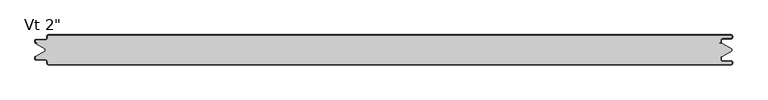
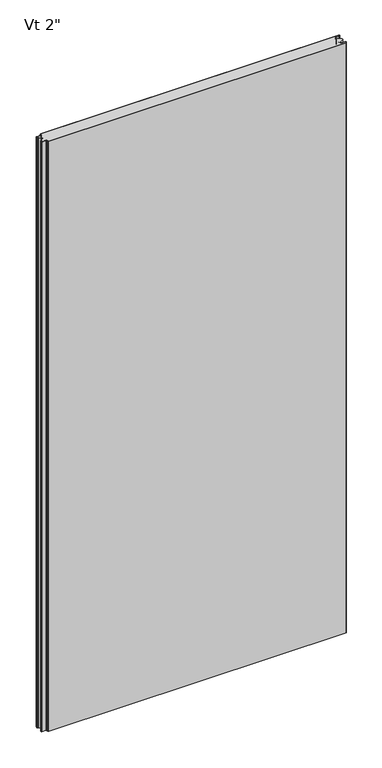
"""IFC4 building model written with IfcOpenShell, lengths in millimetres: plate geometry."""

from ifc_helpers import new_model, si_unit, frame, origin, place, context, project, spatial, polyline, circle_curve, source, transform, mapped, element, save
from ifc_brep_helpers import plane_surface, cylinder_surface, revolved_surface, advanced_brep


def plate_b911fb24(model_context):
    return source(origin(), model_context, "Body", "AdvancedBrep", [
        advanced_brep(
        [(-572.4119006, -2.9775467, 2400.0), (-572.4119006, -5.2690127, 2400.0), (-576.3894926, -9.2466047, 2400.0), (-591.9862817, -9.2466047, 2400.0), (-592.5740768, -9.8343998, 2400.0), (-592.5740768, -12.9058755, 2400.0), (-591.986223, -13.4937293, 2400.0), (-589.6312064, -13.4937293, 2400.0), (-589.6312064, -14.4937446, 2400.0), (-591.9207851, -14.4937446, 2400.0), (-576.2625, -23.7509179, 2400.0), (-576.2625, -27.0490865, 2400.0), (-591.9207851, -36.3062598, 2400.0), (-589.6312064, -36.3062598, 2400.0), (-589.6312064, -37.3062598, 2400.0), (-591.986242, -37.3062598, 2400.0), (-592.5741186, -37.8941365, 2400.0), (-592.5741186, -40.9656854, 2400.0), (-591.9862417, -41.5535623, 2400.0), (-576.3898173, -41.5535623, 2400.0), (-572.4125501, -45.5308295, 2400.0), (-572.4125501, -47.8227194, 2400.0), (-570.4352761, -49.7999935, 2400.0), (574.5475652, -49.8, 2400.0), (576.5248337, -47.8227315, 2400.0), (576.5248337, -46.7806329, 2400.0), (574.5475652, -44.8033643, 2400.0), (560.3591802, -44.8033643, 2400.0), (557.7713036, -42.2154878, 2400.0), (557.7713036, -37.8950697, 2400.0), (557.1628365, -37.3060762, 2400.0), (554.7857432, -37.3060762, 2400.0), (554.7857432, -36.3066023, 2400.0), (560.2280123, -36.3066023, 2400.0), (576.2625, -27.0490865, 2400.0), (576.2625, -23.7509179, 2400.0), (560.2280123, -14.4934021, 2400.0), (554.7857432, -14.4934021, 2400.0), (554.7857432, -13.4939418, 2400.0), (557.1628475, -13.4939418, 2400.0), (557.7713476, -12.9049279, 2400.0), (557.7713476, -8.5845971, 2400.0), (560.3591411, -5.9968035, 2400.0), (574.5478903, -5.9968035, 2400.0), (576.5254845, -4.0192093, 2400.0), (576.5254845, -2.9770147, 2400.0), (574.548995, -1.0005251, 2400.0), (-570.4977766, -1.0005251, 2400.0), (-572.4119006, -2.9775467, 0.0), (-570.4977766, -1.0005251, 0.0), (574.548995, -1.0005251, 0.0), (576.5254845, -2.9770147, 0.0), (576.5254845, -4.0192093, 0.0), (574.5478903, -5.9968035, 0.0), (560.3591411, -5.9968035, 0.0), (557.7713476, -8.5845971, 0.0), (557.7713476, -12.9049279, 0.0), (557.1628475, -13.4939418, 0.0), (554.7857432, -13.4939418, 0.0), (554.7857432, -14.4934021, 0.0), (560.2280123, -14.4934021, 0.0), (576.2625, -23.7509179, 0.0), (576.2625, -27.0490865, 0.0), (560.2280123, -36.3066023, 0.0), (554.7857432, -36.3066023, 0.0), (554.7857432, -37.3060762, 0.0), (557.1628365, -37.3060762, 0.0), (557.7713036, -37.8950697, 0.0), (557.7713036, -42.2154878, 0.0), (560.3591802, -44.8033643, 0.0), (574.5475652, -44.8033643, 0.0), (576.5248337, -46.7806329, 0.0), (576.5248337, -47.8227315, 0.0), (574.5475652, -49.8, 0.0), (-570.4352761, -49.8, 0.0), (-572.4125501, -47.8227194, 0.0), (-572.4125501, -45.5308295, 0.0), (-576.3898173, -41.5535623, 0.0), (-591.9862417, -41.5535623, 0.0), (-592.5741186, -40.9656854, 0.0), (-592.5741186, -37.8941365, 0.0), (-591.986242, -37.3062598, 0.0), (-589.6312064, -37.3062598, 0.0), (-589.6312064, -36.3062598, 0.0), (-591.9207851, -36.3062598, 0.0), (-576.2625, -27.0490865, 0.0), (-576.2625, -23.7509179, 0.0), (-591.9207851, -14.4937446, 0.0), (-589.6312064, -14.4937446, 0.0), (-589.6312064, -13.4937293, 0.0), (-591.986223, -13.4937293, 0.0), (-592.5740768, -12.9058755, 0.0), (-592.5740768, -9.8343998, 0.0), (-591.9862817, -9.2466047, 0.0), (-576.3894926, -9.2466047, 0.0), (-572.4119006, -5.2690127, 0.0)],
        [
            (0, 1),
            (1, 2, circle_curve(frame((-576.3894926, -5.2690127, 2400.0), z_axis=(0.0, 0.0, -1.0), x_axis=(0.0, 1.0, 0.0)), 3.977592)),
            (2, 3),
            (3, 4, circle_curve(frame((-591.9862817, -9.8343998, 2400.0), z_axis=(0.0, 0.0, 1.0), x_axis=(0.0, 1.0, 0.0)), 0.5877951)),
            (4, 5),
            (5, 6, circle_curve(frame((-591.986223, -12.9058755, 2400.0), z_axis=(0.0, 0.0, 1.0), x_axis=(0.0, 1.0, 0.0)), 0.5878538)),
            (6, 7),
            (7, 8),
            (8, 9),
            (9, 10),
            (10, 11),
            (11, 12),
            (12, 13),
            (13, 14),
            (14, 15),
            (15, 16, circle_curve(frame((-591.986242, -37.8941365, 2400.0), z_axis=(0.0, 0.0, 1.0), x_axis=(0.0, 1.0, 0.0)), 0.5878766)),
            (16, 17),
            (17, 18, circle_curve(frame((-591.9862417, -40.9656854, 2400.0), z_axis=(0.0, 0.0, 1.0), x_axis=(0.0, 1.0, 0.0)), 0.5878769)),
            (18, 19),
            (19, 20, circle_curve(frame((-576.3898173, -45.5308295, 2400.0), z_axis=(0.0, 0.0, -1.0), x_axis=(0.0, 1.0, 0.0)), 3.9772671)),
            (20, 21),
            (21, 22, circle_curve(frame((-570.4352761, -47.8227194, 2400.0), z_axis=(0.0, 0.0, 1.0), x_axis=(0.0, 1.0, 0.0)), 1.977274)),
            (22, 23),
            (23, 24, circle_curve(frame((574.5475652, -47.8227315, 2400.0), z_axis=(0.0, 0.0, 1.0), x_axis=(0.0, 1.0, 0.0)), 1.9772685)),
            (24, 25),
            (25, 26, circle_curve(frame((574.5475652, -46.7806329, 2400.0), z_axis=(0.0, 0.0, 1.0), x_axis=(0.0, 1.0, 0.0)), 1.9772685)),
            (26, 27),
            (27, 28, circle_curve(frame((560.3591802, -42.2154878, 2400.0), z_axis=(0.0, 0.0, -1.0), x_axis=(0.0, 1.0, 0.0)), 2.5878765)),
            (28, 29),
            (29, 30, circle_curve(frame((557.1819985, -37.8950697, 2400.0), z_axis=(0.0, 0.0, 1.0), x_axis=(0.0, 1.0, 0.0)), 0.5893051)),
            (30, 31),
            (31, 32),
            (32, 33),
            (33, 34),
            (34, 35),
            (35, 36),
            (36, 37),
            (37, 38),
            (38, 39),
            (39, 40, circle_curve(frame((557.1820216, -12.9049279, 2400.0), z_axis=(0.0, 0.0, 1.0), x_axis=(0.0, 1.0, 0.0)), 0.589326)),
            (40, 41),
            (41, 42, circle_curve(frame((560.3591411, -8.5845971, 2400.0), z_axis=(0.0, 0.0, -1.0), x_axis=(0.0, 1.0, 0.0)), 2.5877935)),
            (42, 43),
            (43, 44, circle_curve(frame((574.5478903, -4.0192093, 2400.0), z_axis=(0.0, 0.0, 1.0), x_axis=(0.0, 1.0, 0.0)), 1.9775943)),
            (44, 45),
            (45, 46, circle_curve(frame((574.548995, -2.9770147, 2400.0), z_axis=(0.0, 0.0, 1.0), x_axis=(0.0, 1.0, 0.0)), 1.9764896)),
            (46, 47),
            (47, 0, circle_curve(frame((-570.4338456, -2.9775467, 2400.0), z_axis=(0.0, 0.0, 1.0), x_axis=(0.0, 1.0, 0.0)), 1.978055)),
            (48, 49, circle_curve(frame((-570.4338456, -2.9775467, 0.0), z_axis=(0.0, 0.0, -1.0), x_axis=(0.0, 1.0, 0.0)), 1.978055)),
            (49, 50),
            (50, 51, circle_curve(frame((574.548995, -2.9770147, 0.0), z_axis=(0.0, 0.0, -1.0), x_axis=(0.0, 1.0, 0.0)), 1.9764896)),
            (51, 52),
            (52, 53, circle_curve(frame((574.5478903, -4.0192093, 0.0), z_axis=(0.0, 0.0, -1.0), x_axis=(0.0, 1.0, 0.0)), 1.9775943)),
            (53, 54),
            (54, 55, circle_curve(frame((560.3591411, -8.5845971, 0.0), z_axis=(0.0, 0.0, 1.0), x_axis=(0.0, 1.0, 0.0)), 2.5877935)),
            (55, 56),
            (56, 57, circle_curve(frame((557.1820216, -12.9049279, 0.0), z_axis=(0.0, 0.0, -1.0), x_axis=(0.0, 1.0, 0.0)), 0.589326)),
            (57, 58),
            (58, 59),
            (59, 60),
            (60, 61),
            (61, 62),
            (62, 63),
            (63, 64),
            (64, 65),
            (65, 66),
            (66, 67, circle_curve(frame((557.1819985, -37.8950697, 0.0), z_axis=(0.0, 0.0, -1.0), x_axis=(0.0, 1.0, 0.0)), 0.5893051)),
            (67, 68),
            (68, 69, circle_curve(frame((560.3591802, -42.2154878, 0.0), z_axis=(0.0, 0.0, 1.0), x_axis=(0.0, 1.0, 0.0)), 2.5878765)),
            (69, 70),
            (70, 71, circle_curve(frame((574.5475652, -46.7806329, 0.0), z_axis=(0.0, 0.0, -1.0), x_axis=(0.0, 1.0, 0.0)), 1.9772685)),
            (71, 72),
            (72, 73, circle_curve(frame((574.5475652, -47.8227315, 0.0), z_axis=(0.0, 0.0, -1.0), x_axis=(0.0, 1.0, 0.0)), 1.9772685)),
            (73, 74),
            (74, 75, circle_curve(frame((-570.4352761, -47.8227194, 0.0), z_axis=(0.0, 0.0, -1.0), x_axis=(0.0, 1.0, 0.0)), 1.977274)),
            (75, 76),
            (76, 77, circle_curve(frame((-576.3898173, -45.5308295, 0.0), z_axis=(0.0, 0.0, 1.0), x_axis=(0.0, 1.0, 0.0)), 3.9772671)),
            (77, 78),
            (78, 79, circle_curve(frame((-591.9862417, -40.9656854, 0.0), z_axis=(0.0, 0.0, -1.0), x_axis=(0.0, 1.0, 0.0)), 0.5878769)),
            (79, 80),
            (80, 81, circle_curve(frame((-591.986242, -37.8941365, 0.0), z_axis=(0.0, 0.0, -1.0), x_axis=(0.0, 1.0, 0.0)), 0.5878766)),
            (81, 82),
            (82, 83),
            (83, 84),
            (84, 85),
            (85, 86),
            (86, 87),
            (87, 88),
            (88, 89),
            (89, 90),
            (90, 91, circle_curve(frame((-591.986223, -12.9058755, 0.0), z_axis=(0.0, 0.0, -1.0), x_axis=(0.0, 1.0, 0.0)), 0.5878538)),
            (91, 92),
            (92, 93, circle_curve(frame((-591.9862817, -9.8343998, 0.0), z_axis=(0.0, 0.0, -1.0), x_axis=(0.0, 1.0, 0.0)), 0.5877951)),
            (93, 94),
            (94, 95, circle_curve(frame((-576.3894926, -5.2690127, 0.0), z_axis=(0.0, 0.0, 1.0), x_axis=(0.0, 1.0, 0.0)), 3.977592)),
            (95, 48),
            (47, 49),
            (48, 0),
            (95, 1),
            (94, 2),
            (93, 3),
            (92, 4),
            (91, 5),
            (90, 6),
            (89, 7),
            (88, 8),
            (87, 9),
            (36, 60),
            (59, 37),
            (58, 38),
            (57, 39),
            (56, 40),
            (55, 41),
            (54, 42),
            (53, 43),
            (52, 44),
            (51, 45),
            (50, 46),
            (35, 61),
            (86, 10),
            (21, 75),
            (74, 22),
            (20, 76),
            (19, 77),
            (18, 78),
            (17, 79),
            (16, 80),
            (15, 81),
            (14, 82),
            (13, 83),
            (12, 84),
            (32, 64),
            (63, 33),
            (31, 65),
            (30, 66),
            (29, 67),
            (28, 68),
            (27, 69),
            (26, 70),
            (25, 71),
            (24, 72),
            (23, 73),
            (62, 34),
            (11, 85),
        ],
        [
            plane_surface(frame((0.0, -49.8, 2400.0), z_axis=(0.0, 0.0, 1.0), x_axis=(0.0, -1.0, 0.0))),
            plane_surface(frame((0.0, -49.8, 0.0), z_axis=(0.0, 0.0, -1.0), x_axis=(0.0, -1.0, 0.0))),
            cylinder_surface(frame((-570.4338456, -2.9775467, 2400.0), z_axis=(0.0, 0.0, 1.0), x_axis=(0.0, 1.0, 0.0)), 1.978055),
            plane_surface(frame((-572.4119006, -5.2690127, 2400.0), z_axis=(-1.0, 0.0, 0.0), x_axis=(0.0, 0.0, -1.0))),
            revolved_surface(polyline([(-576.3894926, -1.2914207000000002, 0.0), (-576.3894926, -1.2914207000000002, 2400.0)]), (-576.3894926, -5.2690127, 2400.0), (0.0, 0.0, -1.0)),
            plane_surface(frame((-591.9862817, -9.2466047, 2400.0), z_axis=(0.0, 1.0, 0.0), x_axis=(0.0, 0.0, -1.0))),
            cylinder_surface(frame((-591.9862817, -9.8343998, 2400.0), z_axis=(0.0, 0.0, 1.0), x_axis=(0.0, 1.0, 0.0)), 0.5877951),
            plane_surface(frame((-592.5740768, -12.9058755, 2400.0), z_axis=(-1.0, 0.0, 0.0), x_axis=(0.0, 0.0, -1.0))),
            cylinder_surface(frame((-591.986223, -12.9058755, 2400.0), z_axis=(0.0, 0.0, 1.0), x_axis=(0.0, 1.0, 0.0)), 0.5878538),
            plane_surface(frame((-589.6312064, -13.4937293, 2400.0), z_axis=(0.0, -1.0, 0.0), x_axis=(0.0, 0.0, -1.0))),
            plane_surface(frame((-589.6312064, -14.4937446, 2400.0), z_axis=(-1.0, 0.0, 0.0), x_axis=(0.0, 0.0, -1.0))),
            plane_surface(frame((-591.9207851, -14.4937446, 2400.0), z_axis=(0.0, 1.0, 0.0), x_axis=(0.0, 0.0, -1.0))),
            plane_surface(frame((554.7857432, -14.4934021, 2400.0), z_axis=(0.0, 1.0, 0.0), x_axis=(0.0, 0.0, -1.0))),
            plane_surface(frame((554.7857432, -13.4939418, 2400.0), z_axis=(1.0, 0.0, 0.0), x_axis=(0.0, 0.0, -1.0))),
            plane_surface(frame((557.1628475, -13.4939418, 2400.0), z_axis=(0.0, -1.0, 0.0), x_axis=(0.0, 0.0, -1.0))),
            cylinder_surface(frame((557.1820216, -12.9049279, 2400.0), z_axis=(0.0, 0.0, 1.0), x_axis=(0.0, 1.0, 0.0)), 0.589326),
            plane_surface(frame((557.7713476, -8.5845971, 2400.0), z_axis=(1.0, 0.0, 0.0), x_axis=(0.0, 0.0, -1.0))),
            revolved_surface(polyline([(560.3591411, -5.9968036, 0.0), (560.3591411, -5.9968036, 2400.0)]), (560.3591411, -8.5845971, 2400.0), (0.0, 0.0, -1.0)),
            plane_surface(frame((574.5478903, -5.9968035, 2400.0), z_axis=(0.0, -1.0, 0.0), x_axis=(0.0, 0.0, -1.0))),
            cylinder_surface(frame((574.5478903, -4.0192093, 2400.0), z_axis=(0.0, 0.0, 1.0), x_axis=(0.0, 1.0, 0.0)), 1.9775943),
            plane_surface(frame((576.5254845, -2.9770147, 2400.0), z_axis=(1.0, 0.0, 0.0), x_axis=(0.0, 0.0, -1.0))),
            cylinder_surface(frame((574.548995, -2.9770147, 2400.0), z_axis=(0.0, 0.0, 1.0), x_axis=(0.0, 1.0, 0.0)), 1.9764896),
            plane_surface(frame((560.2280123, -14.4934021, 2400.0), z_axis=(0.500000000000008, 0.8660254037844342, 0.0), x_axis=(0.0, 0.0, -1.0))),
            plane_surface(frame((-576.2625, -23.7509179, 2400.0), z_axis=(-0.5089147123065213, -0.860816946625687, 0.0), x_axis=(0.0, 0.0, -1.0))),
            cylinder_surface(frame((-570.4352761, -47.8227194, 2400.0), z_axis=(0.0, 0.0, 1.0), x_axis=(0.0, 1.0, 0.0)), 1.977274),
            plane_surface(frame((-572.4125501, -47.8227194, 2400.0), z_axis=(-1.0, 0.0, 0.0), x_axis=(0.0, 0.0, -1.0))),
            revolved_surface(polyline([(-576.3898173, -41.553562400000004, 0.0), (-576.3898173, -41.553562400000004, 2400.0)]), (-576.3898173, -45.5308295, 2400.0), (0.0, 0.0, -1.0)),
            plane_surface(frame((-576.3898173, -41.5535623, 2400.0), z_axis=(0.0, -1.0, 0.0), x_axis=(0.0, 0.0, -1.0))),
            cylinder_surface(frame((-591.9862417, -40.9656854, 2400.0), z_axis=(0.0, 0.0, 1.0), x_axis=(0.0, 1.0, 0.0)), 0.5878769),
            plane_surface(frame((-592.5741186, -40.9656854, 2400.0), z_axis=(-1.0, 0.0, 0.0), x_axis=(0.0, 0.0, -1.0))),
            cylinder_surface(frame((-591.986242, -37.8941365, 2400.0), z_axis=(0.0, 0.0, 1.0), x_axis=(0.0, 1.0, 0.0)), 0.5878766),
            plane_surface(frame((-591.986242, -37.3062598, 2400.0), z_axis=(0.0, 1.0, 0.0), x_axis=(0.0, 0.0, -1.0))),
            plane_surface(frame((-589.6312064, -37.3062598, 2400.0), z_axis=(-1.0, 0.0, 0.0), x_axis=(0.0, 0.0, -1.0))),
            plane_surface(frame((-589.6312064, -36.3062598, 2400.0), z_axis=(0.0, -1.0, 0.0), x_axis=(0.0, 0.0, -1.0))),
            plane_surface(frame((560.2280123, -36.3066023, 2400.0), z_axis=(0.0, -1.0, 0.0), x_axis=(0.0, 0.0, -1.0))),
            plane_surface(frame((554.7857432, -36.3066023, 2400.0), z_axis=(1.0, 0.0, 0.0), x_axis=(0.0, 0.0, -1.0))),
            plane_surface(frame((554.7857432, -37.3060762, 2400.0), z_axis=(0.0, 1.0, 0.0), x_axis=(0.0, 0.0, -1.0))),
            cylinder_surface(frame((557.1819985, -37.8950697, 2400.0), z_axis=(0.0, 0.0, 1.0), x_axis=(0.0, 1.0, 0.0)), 0.5893051),
            plane_surface(frame((557.7713036, -37.8950697, 2400.0), z_axis=(1.0, 0.0, 0.0), x_axis=(0.0, 0.0, -1.0))),
            revolved_surface(polyline([(560.3591802, -39.6276113, 0.0), (560.3591802, -39.6276113, 2400.0)]), (560.3591802, -42.2154878, 2400.0), (0.0, 0.0, -1.0)),
            plane_surface(frame((560.3591802, -44.8033643, 2400.0), z_axis=(0.0, 1.0, 0.0), x_axis=(0.0, 0.0, -1.0))),
            cylinder_surface(frame((574.5475652, -46.7806329, 2400.0), z_axis=(0.0, 0.0, 1.0), x_axis=(0.0, 1.0, 0.0)), 1.9772685),
            plane_surface(frame((576.5248337, -46.7806329, 2400.0), z_axis=(1.0, 0.0, 0.0), x_axis=(0.0, 0.0, -1.0))),
            cylinder_surface(frame((574.5475652, -47.8227315, 2400.0), z_axis=(0.0, 0.0, 1.0), x_axis=(0.0, 1.0, 0.0)), 1.9772685),
            plane_surface(frame((574.5475652, -49.8, 2400.0), z_axis=(0.0, -1.0, 0.0), x_axis=(0.0, 0.0, -1.0))),
            plane_surface(frame((576.2625, -27.0490865, 2400.0), z_axis=(0.500000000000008, -0.8660254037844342, 0.0), x_axis=(0.0, 0.0, -1.0))),
            plane_surface(frame((-591.9207851, -36.3062598, 2400.0), z_axis=(-0.5089147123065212, 0.860816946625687, 0.0), x_axis=(0.0, 0.0, -1.0))),
            plane_surface(frame((576.2625, -23.7509179, 2400.0), z_axis=(1.0, 0.0, 0.0), x_axis=(0.0, 0.0, -1.0))),
            plane_surface(frame((-576.2625, -27.0490865, 2400.0), z_axis=(-1.0, 0.0, 0.0), x_axis=(0.0, 0.0, -1.0))),
            plane_surface(frame((-570.4977766, -1.0005251, 2400.0), z_axis=(0.0, 1.0, 0.0), x_axis=(0.0, 0.0, -1.0))),
        ],
        [
            (0, [[1, 2, 3, 4, 5, 6, 7, 8, 9, 10, 11, 12, 13, 14, 15, 16, 17, 18, 19, 20, 21, 22, 23, 24, 25, 26, 27, 28, 29, 30, 31, 32, 33, 34, 35, 36, 37, 38, 39, 40, 41, 42, 43, 44, 45, 46, 47, 48]]),
            (1, [[49, 50, 51, 52, 53, 54, 55, 56, 57, 58, 59, 60, 61, 62, 63, 64, 65, 66, 67, 68, 69, 70, 71, 72, 73, 74, 75, 76, 77, 78, 79, 80, 81, 82, 83, 84, 85, 86, 87, 88, 89, 90, 91, 92, 93, 94, 95, 96]]),
            (2, [[97, -49, 98, -48]]),
            (3, [[-98, -96, 99, -1]]),
            (4, [[-99, -95, 100, -2]]),
            (5, [[-100, -94, 101, -3]]),
            (6, [[-101, -93, 102, -4]]),
            (7, [[-102, -92, 103, -5]]),
            (8, [[-103, -91, 104, -6]]),
            (9, [[-104, -90, 105, -7]]),
            (10, [[-105, -89, 106, -8]]),
            (11, [[-106, -88, 107, -9]]),
            (12, [[108, -60, 109, -37]]),
            (13, [[-109, -59, 110, -38]]),
            (14, [[-110, -58, 111, -39]]),
            (15, [[-111, -57, 112, -40]]),
            (16, [[-112, -56, 113, -41]]),
            (17, [[-113, -55, 114, -42]]),
            (18, [[-114, -54, 115, -43]]),
            (19, [[-115, -53, 116, -44]]),
            (20, [[-116, -52, 117, -45]]),
            (21, [[-117, -51, 118, -46]]),
            (22, [[119, -61, -108, -36]]),
            (23, [[-107, -87, 120, -10]]),
            (24, [[121, -75, 122, -22]]),
            (25, [[123, -76, -121, -21]]),
            (26, [[124, -77, -123, -20]]),
            (27, [[125, -78, -124, -19]]),
            (28, [[126, -79, -125, -18]]),
            (29, [[127, -80, -126, -17]]),
            (30, [[128, -81, -127, -16]]),
            (31, [[129, -82, -128, -15]]),
            (32, [[130, -83, -129, -14]]),
            (33, [[131, -84, -130, -13]]),
            (34, [[132, -64, 133, -33]]),
            (35, [[134, -65, -132, -32]]),
            (36, [[135, -66, -134, -31]]),
            (37, [[136, -67, -135, -30]]),
            (38, [[137, -68, -136, -29]]),
            (39, [[138, -69, -137, -28]]),
            (40, [[139, -70, -138, -27]]),
            (41, [[140, -71, -139, -26]]),
            (42, [[141, -72, -140, -25]]),
            (43, [[142, -73, -141, -24]]),
            (44, [[-122, -74, -142, -23]]),
            (45, [[-133, -63, 143, -34]]),
            (46, [[144, -85, -131, -12]]),
            (47, [[-143, -62, -119, -35]]),
            (48, [[-120, -86, -144, -11]]),
            (49, [[-118, -50, -97, -47]]),
        ],
    ),
        advanced_brep(
        [(-572.4123937, -2.9776189, 2400.0), (-570.4354837, -1.0007088, 2400.0), (574.550337, -1.0007088, 2400.0), (576.5262182, -2.97659, 2400.0), (576.5262182, -4.019022, 2400.0), (574.5482568, -5.9969834, 2400.0), (560.3590971, -5.9969834, 2400.0), (557.7713971, -8.5846834, 2400.0), (557.7713971, -12.9049158, 2400.0), (557.1628599, -13.4939528, 2400.0), (554.7857432, -13.4939528, 2400.0), (554.7857432, -14.4933977, 2400.0), (557.1304042, -14.4933977, 2400.0), (558.7713036, -12.9049303, 2400.0), (558.7713036, -8.5845122, 2400.0), (560.3591801, -6.9966356, 2400.0), (574.5475652, -6.9966356, 2400.0), (577.5248337, -4.0193671, 2400.0), (577.5248337, -2.9772685, 2400.0), (574.5475652, 0.0, 2400.0), (-570.4352789, 0.0, 2400.0), (-573.4125474, -2.977286, 2400.0), (-573.4125474, -5.2691698, 2400.0), (-576.3898159, -8.2464384, 2400.0), (-591.9862419, -8.2464384, 2400.0), (-593.5741185, -9.8343149, 2400.0), (-593.5741185, -12.9058636, 2400.0), (-591.9862419, -14.4937401, 2400.0), (-589.6312064, -14.4937401, 2400.0), (-589.6312064, -13.4937365, 2400.0), (-591.9862374, -13.4937365, 2400.0), (-592.5741086, -12.9058654, 2400.0), (-592.5741086, -9.834334, 2400.0), (-591.9862514, -9.2464768, 2400.0), (-576.3897391, -9.2464768, 2400.0), (-572.4123937, -5.2691315, 2400.0), (-572.4123937, -2.9776189, 0.0), (-572.4123937, -5.2691315, 0.0), (-576.3897391, -9.2464768, 0.0), (-591.9862514, -9.2464768, 0.0), (-592.5741086, -9.834334, 0.0), (-592.5741086, -12.9058654, 0.0), (-591.9862374, -13.4937365, 0.0), (-589.6312064, -13.4937365, 0.0), (-589.6312064, -14.4937401, 0.0), (-591.9862419, -14.4937401, 0.0), (-593.5741185, -12.9058636, 0.0), (-593.5741185, -9.8343149, 0.0), (-591.9862419, -8.2464384, 0.0), (-576.3898159, -8.2464384, 0.0), (-573.4125474, -5.2691698, 0.0), (-573.4125474, -2.977286, 0.0), (-570.4352789, -1.75e-05, 0.0), (574.5475652, 0.0, 0.0), (577.5248337, -2.9772685, 0.0), (577.5248337, -4.0193671, 0.0), (574.5475652, -6.9966356, 0.0), (560.3591801, -6.9966356, 0.0), (558.7713036, -8.5845122, 0.0), (558.7713036, -12.9049303, 0.0), (557.1304042, -14.4933977, 0.0), (554.7857432, -14.4933977, 0.0), (554.7857432, -13.4939528, 0.0), (557.1628599, -13.4939528, 0.0), (557.7713971, -12.9049158, 0.0), (557.7713971, -8.5846834, 0.0), (560.3590971, -5.9969834, 0.0), (574.5482568, -5.9969834, 0.0), (576.5262182, -4.019022, 0.0), (576.5262182, -2.97659, 0.0), (574.550337, -1.0007088, 0.0), (-570.4354837, -1.0007088, 0.0)],
        [
            (0, 1, circle_curve(frame((-570.4354837, -2.9776189, 2400.0), z_axis=(0.0, 0.0, -1.0), x_axis=(0.0, 1.0, 0.0)), 1.9769101)),
            (1, 2),
            (2, 3, circle_curve(frame((574.550337, -2.97659, 2400.0), z_axis=(0.0, 0.0, -1.0), x_axis=(0.0, 1.0, 0.0)), 1.9758812)),
            (3, 4),
            (4, 5, circle_curve(frame((574.5482568, -4.019022, 2400.0), z_axis=(0.0, 0.0, -1.0), x_axis=(0.0, 1.0, 0.0)), 1.9779614)),
            (5, 6),
            (6, 7, circle_curve(frame((560.3590971, -8.5846834, 2400.0), z_axis=(0.0, 0.0, 1.0), x_axis=(0.0, 1.0, 0.0)), 2.5877)),
            (7, 8),
            (8, 9, circle_curve(frame((557.1820477, -12.9049158, 2400.0), z_axis=(0.0, 0.0, -1.0), x_axis=(0.0, 1.0, 0.0)), 0.5893495)),
            (9, 10),
            (10, 11),
            (11, 12),
            (12, 13, circle_curve(frame((557.1819985, -12.9049303, 2400.0), z_axis=(0.0, 0.0, 1.0), x_axis=(0.0, 1.0, 0.0)), 1.5893051)),
            (13, 14),
            (14, 15, circle_curve(frame((560.3591801, -8.5845122, 2400.0), z_axis=(0.0, 0.0, -1.0), x_axis=(0.0, 1.0, 0.0)), 1.5878765)),
            (15, 16),
            (16, 17, circle_curve(frame((574.5475652, -4.0193671, 2400.0), z_axis=(0.0, 0.0, 1.0), x_axis=(0.0, 1.0, 0.0)), 2.9772685)),
            (17, 18),
            (18, 19, circle_curve(frame((574.5475652, -2.9772685, 2400.0), z_axis=(0.0, 0.0, 1.0), x_axis=(0.0, 1.0, 0.0)), 2.9772685)),
            (19, 20),
            (20, 21, circle_curve(frame((-570.4352789, -2.977286, 2400.0), z_axis=(0.0, 0.0, 1.0), x_axis=(0.0, 1.0, 0.0)), 2.9772685)),
            (21, 22),
            (22, 23, circle_curve(frame((-576.3898159, -5.2691698, 2400.0), z_axis=(0.0, 0.0, -1.0), x_axis=(0.0, 1.0, 0.0)), 2.9772685)),
            (23, 24),
            (24, 25, circle_curve(frame((-591.9862419, -9.8343149, 2400.0), z_axis=(0.0, 0.0, 1.0), x_axis=(0.0, 1.0, 0.0)), 1.5878765)),
            (25, 26),
            (26, 27, circle_curve(frame((-591.9862419, -12.9058636, 2400.0), z_axis=(0.0, 0.0, 1.0), x_axis=(0.0, 1.0, 0.0)), 1.5878765)),
            (27, 28),
            (28, 29),
            (29, 30),
            (30, 31, circle_curve(frame((-591.9862374, -12.9058654, 2400.0), z_axis=(0.0, 0.0, -1.0), x_axis=(0.0, 1.0, 0.0)), 0.5878711)),
            (31, 32),
            (32, 33, circle_curve(frame((-591.9862514, -9.834334, 2400.0), z_axis=(0.0, 0.0, -1.0), x_axis=(0.0, 1.0, 0.0)), 0.5878572)),
            (33, 34),
            (34, 35, circle_curve(frame((-576.3897391, -5.2691315, 2400.0), z_axis=(0.0, 0.0, 1.0), x_axis=(0.0, 1.0, 0.0)), 3.9773454)),
            (35, 0),
            (36, 37),
            (37, 38, circle_curve(frame((-576.3897391, -5.2691315, 0.0), z_axis=(0.0, 0.0, -1.0), x_axis=(0.0, 1.0, 0.0)), 3.9773454)),
            (38, 39),
            (39, 40, circle_curve(frame((-591.9862514, -9.834334, 0.0), z_axis=(0.0, 0.0, 1.0), x_axis=(0.0, 1.0, 0.0)), 0.5878572)),
            (40, 41),
            (41, 42, circle_curve(frame((-591.9862374, -12.9058654, 0.0), z_axis=(0.0, 0.0, 1.0), x_axis=(0.0, 1.0, 0.0)), 0.5878711)),
            (42, 43),
            (43, 44),
            (44, 45),
            (45, 46, circle_curve(frame((-591.9862419, -12.9058636, 0.0), z_axis=(0.0, 0.0, -1.0), x_axis=(0.0, 1.0, 0.0)), 1.5878765)),
            (46, 47),
            (47, 48, circle_curve(frame((-591.9862419, -9.8343149, 0.0), z_axis=(0.0, 0.0, -1.0), x_axis=(0.0, 1.0, 0.0)), 1.5878765)),
            (48, 49),
            (49, 50, circle_curve(frame((-576.3898159, -5.2691698, 0.0), z_axis=(0.0, 0.0, 1.0), x_axis=(0.0, 1.0, 0.0)), 2.9772685)),
            (50, 51),
            (51, 52, circle_curve(frame((-570.4352789, -2.977286, 0.0), z_axis=(0.0, 0.0, -1.0), x_axis=(0.0, 1.0, 0.0)), 2.9772685)),
            (52, 53),
            (53, 54, circle_curve(frame((574.5475652, -2.9772685, 0.0), z_axis=(0.0, 0.0, -1.0), x_axis=(0.0, 1.0, 0.0)), 2.9772685)),
            (54, 55),
            (55, 56, circle_curve(frame((574.5475652, -4.0193671, 0.0), z_axis=(0.0, 0.0, -1.0), x_axis=(0.0, 1.0, 0.0)), 2.9772685)),
            (56, 57),
            (57, 58, circle_curve(frame((560.3591801, -8.5845122, 0.0), z_axis=(0.0, 0.0, 1.0), x_axis=(0.0, 1.0, 0.0)), 1.5878765)),
            (58, 59),
            (59, 60, circle_curve(frame((557.1819985, -12.9049303, 0.0), z_axis=(0.0, 0.0, -1.0), x_axis=(0.0, 1.0, 0.0)), 1.5893051)),
            (60, 61),
            (61, 62),
            (62, 63),
            (63, 64, circle_curve(frame((557.1820477, -12.9049158, 0.0), z_axis=(0.0, 0.0, 1.0), x_axis=(0.0, 1.0, 0.0)), 0.5893495)),
            (64, 65),
            (65, 66, circle_curve(frame((560.3590971, -8.5846834, 0.0), z_axis=(0.0, 0.0, -1.0), x_axis=(0.0, 1.0, 0.0)), 2.5877)),
            (66, 67),
            (67, 68, circle_curve(frame((574.5482568, -4.019022, 0.0), z_axis=(0.0, 0.0, 1.0), x_axis=(0.0, 1.0, 0.0)), 1.9779614)),
            (68, 69),
            (69, 70, circle_curve(frame((574.550337, -2.97659, 0.0), z_axis=(0.0, 0.0, 1.0), x_axis=(0.0, 1.0, 0.0)), 1.9758812)),
            (70, 71),
            (71, 36, circle_curve(frame((-570.4354837, -2.9776189, 0.0), z_axis=(0.0, 0.0, 1.0), x_axis=(0.0, 1.0, 0.0)), 1.9769101)),
            (35, 37),
            (36, 0),
            (34, 38),
            (33, 39),
            (32, 40),
            (31, 41),
            (30, 42),
            (29, 43),
            (28, 44),
            (27, 45),
            (26, 46),
            (25, 47),
            (24, 48),
            (23, 49),
            (22, 50),
            (21, 51),
            (20, 52),
            (19, 53),
            (18, 54),
            (17, 55),
            (16, 56),
            (15, 57),
            (14, 58),
            (13, 59),
            (12, 60),
            (11, 61),
            (10, 62),
            (9, 63),
            (8, 64),
            (7, 65),
            (6, 66),
            (5, 67),
            (4, 68),
            (3, 69),
            (2, 70),
            (1, 71),
        ],
        [
            plane_surface(frame((0.0, 0.0, 2400.0), z_axis=(0.0, 0.0, 1.0), x_axis=(0.0, 1.0, 0.0))),
            plane_surface(frame((0.0, 0.0, 0.0), z_axis=(0.0, 0.0, -1.0), x_axis=(0.0, 1.0, 0.0))),
            plane_surface(frame((-572.4123937, -2.9776189, 2400.0), z_axis=(1.0, 0.0, 0.0), x_axis=(0.0, 0.0, -1.0))),
            cylinder_surface(frame((-576.3897391, -5.2691315, 2400.0), z_axis=(0.0, 0.0, 1.0), x_axis=(0.0, 1.0, 0.0)), 3.9773454),
            plane_surface(frame((-576.3897391, -9.2464768, 2400.0), z_axis=(0.0, -1.0, 0.0), x_axis=(0.0, 0.0, -1.0))),
            revolved_surface(polyline([(-591.9862514, -9.2464768, 0.0), (-591.9862514, -9.2464768, 2400.0)]), (-591.9862514, -9.834334, 2400.0), (0.0, 0.0, -1.0)),
            plane_surface(frame((-592.5741086, -9.834334, 2400.0), z_axis=(1.0, 0.0, 0.0), x_axis=(0.0, 0.0, -1.0))),
            revolved_surface(polyline([(-591.9862374, -12.3179943, 0.0), (-591.9862374, -12.3179943, 2400.0)]), (-591.9862374, -12.9058654, 2400.0), (0.0, 0.0, -1.0)),
            plane_surface(frame((-591.9862374, -13.4937365, 2400.0), z_axis=(0.0, 1.0, 0.0), x_axis=(0.0, 0.0, -1.0))),
            plane_surface(frame((-589.6312064, -13.4937365, 2400.0), z_axis=(1.0, 0.0, 0.0), x_axis=(0.0, 0.0, -1.0))),
            plane_surface(frame((-589.6312064, -14.4937401, 2400.0), z_axis=(0.0, -1.0, 0.0), x_axis=(0.0, 0.0, -1.0))),
            cylinder_surface(frame((-591.9862419, -12.9058636, 2400.0), z_axis=(0.0, 0.0, 1.0), x_axis=(0.0, 1.0, 0.0)), 1.5878765),
            plane_surface(frame((-593.5741185, -12.9058636, 2400.0), z_axis=(-1.0, 0.0, 0.0), x_axis=(0.0, 0.0, -1.0))),
            cylinder_surface(frame((-591.9862419, -9.8343149, 2400.0), z_axis=(0.0, 0.0, 1.0), x_axis=(0.0, 1.0, 0.0)), 1.5878765),
            plane_surface(frame((-591.9862419, -8.2464384, 2400.0), z_axis=(0.0, 1.0, 0.0), x_axis=(0.0, 0.0, -1.0))),
            revolved_surface(polyline([(-576.3898159, -2.2919013, 0.0), (-576.3898159, -2.2919013, 2400.0)]), (-576.3898159, -5.2691698, 2400.0), (0.0, 0.0, -1.0)),
            plane_surface(frame((-573.4125474, -5.2691698, 2400.0), z_axis=(-1.0, 0.0, 0.0), x_axis=(0.0, 0.0, -1.0))),
            cylinder_surface(frame((-570.4352789, -2.977286, 2400.0), z_axis=(0.0, 0.0, 1.0), x_axis=(0.0, 1.0, 0.0)), 2.9772685),
            plane_surface(frame((-570.4352789, 0.0, 2400.0), z_axis=(0.0, 1.0, 0.0), x_axis=(0.0, 0.0, -1.0))),
            cylinder_surface(frame((574.5475652, -2.9772685, 2400.0), z_axis=(0.0, 0.0, 1.0), x_axis=(0.0, 1.0, 0.0)), 2.9772685),
            plane_surface(frame((577.5248337, -2.9772685, 2400.0), z_axis=(1.0, 0.0, 0.0), x_axis=(0.0, 0.0, -1.0))),
            cylinder_surface(frame((574.5475652, -4.0193671, 2400.0), z_axis=(0.0, 0.0, 1.0), x_axis=(0.0, 1.0, 0.0)), 2.9772685),
            plane_surface(frame((574.5475652, -6.9966356, 2400.0), z_axis=(0.0, -1.0, 0.0), x_axis=(0.0, 0.0, -1.0))),
            revolved_surface(polyline([(560.3591801, -6.996635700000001, 0.0), (560.3591801, -6.996635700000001, 2400.0)]), (560.3591801, -8.5845122, 2400.0), (0.0, 0.0, -1.0)),
            plane_surface(frame((558.7713036, -8.5845122, 2400.0), z_axis=(1.0, 0.0, 0.0), x_axis=(0.0, 0.0, -1.0))),
            cylinder_surface(frame((557.1819985, -12.9049303, 2400.0), z_axis=(0.0, 0.0, 1.0), x_axis=(0.0, 1.0, 0.0)), 1.5893051),
            plane_surface(frame((557.1304042, -14.4933977, 2400.0), z_axis=(0.0, -1.0, 0.0), x_axis=(0.0, 0.0, -1.0))),
            plane_surface(frame((554.7857432, -14.4933977, 2400.0), z_axis=(-1.0, 0.0, 0.0), x_axis=(0.0, 0.0, -1.0))),
            plane_surface(frame((554.7857432, -13.4939528, 2400.0), z_axis=(0.0, 1.0, 0.0), x_axis=(0.0, 0.0, -1.0))),
            revolved_surface(polyline([(557.1820477, -12.3155663, 0.0), (557.1820477, -12.3155663, 2400.0)]), (557.1820477, -12.9049158, 2400.0), (0.0, 0.0, -1.0)),
            plane_surface(frame((557.7713971, -12.9049158, 2400.0), z_axis=(-1.0, 0.0, 0.0), x_axis=(0.0, 0.0, -1.0))),
            cylinder_surface(frame((560.3590971, -8.5846834, 2400.0), z_axis=(0.0, 0.0, 1.0), x_axis=(0.0, 1.0, 0.0)), 2.5877),
            plane_surface(frame((560.3590971, -5.9969834, 2400.0), z_axis=(0.0, 1.0, 0.0), x_axis=(0.0, 0.0, -1.0))),
            revolved_surface(polyline([(574.5482568, -2.0410606, 0.0), (574.5482568, -2.0410606, 2400.0)]), (574.5482568, -4.019022, 2400.0), (0.0, 0.0, -1.0)),
            plane_surface(frame((576.5262182, -4.019022, 2400.0), z_axis=(-1.0, 0.0, 0.0), x_axis=(0.0, 0.0, -1.0))),
            revolved_surface(polyline([(574.550337, -1.0007088, 0.0), (574.550337, -1.0007088, 2400.0)]), (574.550337, -2.97659, 2400.0), (0.0, 0.0, -1.0)),
            plane_surface(frame((574.550337, -1.0007088, 2400.0), z_axis=(0.0, -1.0, 0.0), x_axis=(0.0, 0.0, -1.0))),
            revolved_surface(polyline([(-570.4354837, -1.0007088, 0.0), (-570.4354837, -1.0007088, 2400.0)]), (-570.4354837, -2.9776189, 2400.0), (0.0, 0.0, -1.0)),
        ],
        [
            (0, [[1, 2, 3, 4, 5, 6, 7, 8, 9, 10, 11, 12, 13, 14, 15, 16, 17, 18, 19, 20, 21, 22, 23, 24, 25, 26, 27, 28, 29, 30, 31, 32, 33, 34, 35, 36]]),
            (1, [[37, 38, 39, 40, 41, 42, 43, 44, 45, 46, 47, 48, 49, 50, 51, 52, 53, 54, 55, 56, 57, 58, 59, 60, 61, 62, 63, 64, 65, 66, 67, 68, 69, 70, 71, 72]]),
            (2, [[73, -37, 74, -36]]),
            (3, [[75, -38, -73, -35]]),
            (4, [[76, -39, -75, -34]]),
            (5, [[77, -40, -76, -33]]),
            (6, [[78, -41, -77, -32]]),
            (7, [[79, -42, -78, -31]]),
            (8, [[80, -43, -79, -30]]),
            (9, [[81, -44, -80, -29]]),
            (10, [[82, -45, -81, -28]]),
            (11, [[83, -46, -82, -27]]),
            (12, [[84, -47, -83, -26]]),
            (13, [[85, -48, -84, -25]]),
            (14, [[86, -49, -85, -24]]),
            (15, [[87, -50, -86, -23]]),
            (16, [[88, -51, -87, -22]]),
            (17, [[89, -52, -88, -21]]),
            (18, [[90, -53, -89, -20]]),
            (19, [[91, -54, -90, -19]]),
            (20, [[92, -55, -91, -18]]),
            (21, [[93, -56, -92, -17]]),
            (22, [[94, -57, -93, -16]]),
            (23, [[95, -58, -94, -15]]),
            (24, [[96, -59, -95, -14]]),
            (25, [[97, -60, -96, -13]]),
            (26, [[98, -61, -97, -12]]),
            (27, [[99, -62, -98, -11]]),
            (28, [[100, -63, -99, -10]]),
            (29, [[101, -64, -100, -9]]),
            (30, [[102, -65, -101, -8]]),
            (31, [[103, -66, -102, -7]]),
            (32, [[104, -67, -103, -6]]),
            (33, [[105, -68, -104, -5]]),
            (34, [[106, -69, -105, -4]]),
            (35, [[107, -70, -106, -3]]),
            (36, [[108, -71, -107, -2]]),
            (37, [[-74, -72, -108, -1]]),
        ],
    ),
        advanced_brep(
        [(-572.4123937, -47.8223811, 2400.0), (-572.4123937, -45.5308685, 2400.0), (-576.3897391, -41.5535232, 2400.0), (-591.9862514, -41.5535232, 2400.0), (-592.5741086, -40.965666, 2400.0), (-592.5741086, -37.8941346, 2400.0), (-591.9862374, -37.3062635, 2400.0), (-589.6312064, -37.3062635, 2400.0), (-589.6312064, -36.3062599, 2400.0), (-591.9862419, -36.3062599, 2400.0), (-593.5741185, -37.8941364, 2400.0), (-593.5741185, -40.9656851, 2400.0), (-591.9862419, -42.5535616, 2400.0), (-576.3898159, -42.5535616, 2400.0), (-573.4125474, -45.5308302, 2400.0), (-573.4125474, -47.822714, 2400.0), (-570.4352789, -50.7999825, 2400.0), (574.5475652, -50.8, 2400.0), (577.5248337, -47.8227315, 2400.0), (577.5248337, -46.7806329, 2400.0), (574.5475652, -43.8033644, 2400.0), (560.3591801, -43.8033644, 2400.0), (558.7713036, -42.2154878, 2400.0), (558.7713036, -37.8950697, 2400.0), (557.1304042, -36.3066023, 2400.0), (554.7857432, -36.3066023, 2400.0), (554.7857432, -37.3060472, 2400.0), (557.1628599, -37.3060472, 2400.0), (557.7713971, -37.8950842, 2400.0), (557.7713971, -42.2153166, 2400.0), (560.3590971, -44.8030166, 2400.0), (574.5482568, -44.8030166, 2400.0), (576.5262182, -46.780978, 2400.0), (576.5262182, -47.82341, 2400.0), (574.550337, -49.7992912, 2400.0), (-570.4354837, -49.7992912, 2400.0), (-572.4123937, -47.8223811, 0.0), (-570.4354837, -49.7992912, 0.0), (574.550337, -49.7992912, 0.0), (576.5262182, -47.82341, 0.0), (576.5262182, -46.780978, 0.0), (574.5482568, -44.8030166, 0.0), (560.3590971, -44.8030166, 0.0), (557.7713971, -42.2153166, 0.0), (557.7713971, -37.8950842, 0.0), (557.1628599, -37.3060472, 0.0), (554.7857432, -37.3060472, 0.0), (554.7857432, -36.3066023, 0.0), (557.1304042, -36.3066023, 0.0), (558.7713036, -37.8950697, 0.0), (558.7713036, -42.2154878, 0.0), (560.3591801, -43.8033644, 0.0), (574.5475652, -43.8033644, 0.0), (577.5248337, -46.7806329, 0.0), (577.5248337, -47.8227315, 0.0), (574.5475652, -50.8, 0.0), (-570.4352789, -50.8, 0.0), (-573.4125474, -47.822714, 0.0), (-573.4125474, -45.5308302, 0.0), (-576.3898159, -42.5535616, 0.0), (-591.9862419, -42.5535616, 0.0), (-593.5741185, -40.9656851, 0.0), (-593.5741185, -37.8941364, 0.0), (-591.9862419, -36.3062599, 0.0), (-589.6312064, -36.3062599, 0.0), (-589.6312064, -37.3062635, 0.0), (-591.9862374, -37.3062635, 0.0), (-592.5741086, -37.8941346, 0.0), (-592.5741086, -40.965666, 0.0), (-591.9862514, -41.5535232, 0.0), (-576.3897391, -41.5535232, 0.0), (-572.4123937, -45.5308685, 0.0)],
        [
            (0, 1),
            (1, 2, circle_curve(frame((-576.3897391, -45.5308685, 2400.0), z_axis=(0.0, 0.0, 1.0), x_axis=(-1.0, 0.0, 0.0)), 3.9773454)),
            (2, 3),
            (3, 4, circle_curve(frame((-591.9862514, -40.965666, 2400.0), z_axis=(0.0, 0.0, -1.0), x_axis=(-1.0, 0.0, 0.0)), 0.5878572)),
            (4, 5),
            (5, 6, circle_curve(frame((-591.9862374, -37.8941346, 2400.0), z_axis=(0.0, 0.0, -1.0), x_axis=(-1.0, 0.0, 0.0)), 0.5878711)),
            (6, 7),
            (7, 8),
            (8, 9),
            (9, 10, circle_curve(frame((-591.9862419, -37.8941364, 2400.0), z_axis=(0.0, 0.0, 1.0), x_axis=(-1.0, 0.0, 0.0)), 1.5878765)),
            (10, 11),
            (11, 12, circle_curve(frame((-591.9862419, -40.9656851, 2400.0), z_axis=(0.0, 0.0, 1.0), x_axis=(-1.0, 0.0, 0.0)), 1.5878765)),
            (12, 13),
            (13, 14, circle_curve(frame((-576.3898159, -45.5308302, 2400.0), z_axis=(0.0, 0.0, -1.0), x_axis=(-1.0, 0.0, 0.0)), 2.9772685)),
            (14, 15),
            (15, 16, circle_curve(frame((-570.4352789, -47.822714, 2400.0), z_axis=(0.0, 0.0, 1.0), x_axis=(-1.0, 0.0, 0.0)), 2.9772685)),
            (16, 17),
            (17, 18, circle_curve(frame((574.5475652, -47.8227315, 2400.0), z_axis=(0.0, 0.0, 1.0), x_axis=(-1.0, 0.0, 0.0)), 2.9772685)),
            (18, 19),
            (19, 20, circle_curve(frame((574.5475652, -46.7806329, 2400.0), z_axis=(0.0, 0.0, 1.0), x_axis=(-1.0, 0.0, 0.0)), 2.9772685)),
            (20, 21),
            (21, 22, circle_curve(frame((560.3591801, -42.2154878, 2400.0), z_axis=(0.0, 0.0, -1.0), x_axis=(-1.0, 0.0, 0.0)), 1.5878765)),
            (22, 23),
            (23, 24, circle_curve(frame((557.1819985, -37.8950697, 2400.0), z_axis=(0.0, 0.0, 1.0), x_axis=(-1.0, 0.0, 0.0)), 1.5893051)),
            (24, 25),
            (25, 26),
            (26, 27),
            (27, 28, circle_curve(frame((557.1820477, -37.8950842, 2400.0), z_axis=(0.0, 0.0, -1.0), x_axis=(-1.0, 0.0, 0.0)), 0.5893495)),
            (28, 29),
            (29, 30, circle_curve(frame((560.3590971, -42.2153166, 2400.0), z_axis=(0.0, 0.0, 1.0), x_axis=(-1.0, 0.0, 0.0)), 2.5877)),
            (30, 31),
            (31, 32, circle_curve(frame((574.5482568, -46.780978, 2400.0), z_axis=(0.0, 0.0, -1.0), x_axis=(-1.0, 0.0, 0.0)), 1.9779614)),
            (32, 33),
            (33, 34, circle_curve(frame((574.550337, -47.82341, 2400.0), z_axis=(0.0, 0.0, -1.0), x_axis=(-1.0, 0.0, 0.0)), 1.9758812)),
            (34, 35),
            (35, 0, circle_curve(frame((-570.4354837, -47.8223811, 2400.0), z_axis=(0.0, 0.0, -1.0), x_axis=(-1.0, 0.0, 0.0)), 1.9769101)),
            (36, 37, circle_curve(frame((-570.4354837, -47.8223811, 0.0), z_axis=(0.0, 0.0, 1.0), x_axis=(-1.0, 0.0, 0.0)), 1.9769101)),
            (37, 38),
            (38, 39, circle_curve(frame((574.550337, -47.82341, 0.0), z_axis=(0.0, 0.0, 1.0), x_axis=(-1.0, 0.0, 0.0)), 1.9758812)),
            (39, 40),
            (40, 41, circle_curve(frame((574.5482568, -46.780978, 0.0), z_axis=(0.0, 0.0, 1.0), x_axis=(-1.0, 0.0, 0.0)), 1.9779614)),
            (41, 42),
            (42, 43, circle_curve(frame((560.3590971, -42.2153166, 0.0), z_axis=(0.0, 0.0, -1.0), x_axis=(-1.0, 0.0, 0.0)), 2.5877)),
            (43, 44),
            (44, 45, circle_curve(frame((557.1820477, -37.8950842, 0.0), z_axis=(0.0, 0.0, 1.0), x_axis=(-1.0, 0.0, 0.0)), 0.5893495)),
            (45, 46),
            (46, 47),
            (47, 48),
            (48, 49, circle_curve(frame((557.1819985, -37.8950697, 0.0), z_axis=(0.0, 0.0, -1.0), x_axis=(-1.0, 0.0, 0.0)), 1.5893051)),
            (49, 50),
            (50, 51, circle_curve(frame((560.3591801, -42.2154878, 0.0), z_axis=(0.0, 0.0, 1.0), x_axis=(-1.0, 0.0, 0.0)), 1.5878765)),
            (51, 52),
            (52, 53, circle_curve(frame((574.5475652, -46.7806329, 0.0), z_axis=(0.0, 0.0, -1.0), x_axis=(-1.0, 0.0, 0.0)), 2.9772685)),
            (53, 54),
            (54, 55, circle_curve(frame((574.5475652, -47.8227315, 0.0), z_axis=(0.0, 0.0, -1.0), x_axis=(-1.0, 0.0, 0.0)), 2.9772685)),
            (55, 56),
            (56, 57, circle_curve(frame((-570.4352789, -47.822714, 0.0), z_axis=(0.0, 0.0, -1.0), x_axis=(-1.0, 0.0, 0.0)), 2.9772685)),
            (57, 58),
            (58, 59, circle_curve(frame((-576.3898159, -45.5308302, 0.0), z_axis=(0.0, 0.0, 1.0), x_axis=(-1.0, 0.0, 0.0)), 2.9772685)),
            (59, 60),
            (60, 61, circle_curve(frame((-591.9862419, -40.9656851, 0.0), z_axis=(0.0, 0.0, -1.0), x_axis=(-1.0, 0.0, 0.0)), 1.5878765)),
            (61, 62),
            (62, 63, circle_curve(frame((-591.9862419, -37.8941364, 0.0), z_axis=(0.0, 0.0, -1.0), x_axis=(-1.0, 0.0, 0.0)), 1.5878765)),
            (63, 64),
            (64, 65),
            (65, 66),
            (66, 67, circle_curve(frame((-591.9862374, -37.8941346, 0.0), z_axis=(0.0, 0.0, 1.0), x_axis=(-1.0, 0.0, 0.0)), 0.5878711)),
            (67, 68),
            (68, 69, circle_curve(frame((-591.9862514, -40.965666, 0.0), z_axis=(0.0, 0.0, 1.0), x_axis=(-1.0, 0.0, 0.0)), 0.5878572)),
            (69, 70),
            (70, 71, circle_curve(frame((-576.3897391, -45.5308685, 0.0), z_axis=(0.0, 0.0, -1.0), x_axis=(-1.0, 0.0, 0.0)), 3.9773454)),
            (71, 36),
            (23, 49),
            (48, 24),
            (22, 50),
            (21, 51),
            (20, 52),
            (19, 53),
            (17, 55),
            (54, 18),
            (32, 40),
            (39, 33),
            (38, 34),
            (16, 56),
            (37, 35),
            (36, 0),
            (71, 1),
            (70, 2),
            (69, 3),
            (4, 68),
            (67, 5),
            (66, 6),
            (65, 7),
            (64, 8),
            (63, 9),
            (62, 10),
            (61, 11),
            (60, 12),
            (59, 13),
            (58, 14),
            (57, 15),
            (31, 41),
            (30, 42),
            (29, 43),
            (28, 44),
            (27, 45),
            (26, 46),
            (25, 47),
        ],
        [
            plane_surface(frame((0.0, -50.8, 2400.0), z_axis=(0.0, 0.0, 1.0), x_axis=(0.0, -1.0, 0.0))),
            plane_surface(frame((0.0, -50.8, 0.0), z_axis=(0.0, 0.0, -1.0), x_axis=(0.0, -1.0, 0.0))),
            cylinder_surface(frame((557.1819985, -37.8950697, 2400.0), z_axis=(0.0, 0.0, 1.0), x_axis=(-1.0, 0.0, 0.0)), 1.5893051),
            plane_surface(frame((558.7713036, -37.8950697, 2400.0), z_axis=(1.0, 0.0, 0.0), x_axis=(0.0, 0.0, -1.0))),
            revolved_surface(polyline([(558.7713036, -42.2154878, 0.0), (558.7713036, -42.2154878, 2400.0)]), (560.3591801, -42.2154878, 2400.0), (0.0, 0.0, -1.0)),
            plane_surface(frame((560.3591801, -43.8033644, 2400.0), z_axis=(0.0, 1.0, 0.0), x_axis=(0.0, 0.0, -1.0))),
            cylinder_surface(frame((574.5475652, -46.7806329, 2400.0), z_axis=(0.0, 0.0, 1.0), x_axis=(-1.0, 0.0, 0.0)), 2.9772685),
            cylinder_surface(frame((574.5475652, -47.8227315, 2400.0), z_axis=(0.0, 0.0, 1.0), x_axis=(-1.0, 0.0, 0.0)), 2.9772685),
            plane_surface(frame((576.5262182, -47.82341, 2400.0), z_axis=(-1.0, 0.0, 0.0), x_axis=(0.0, 0.0, -1.0))),
            plane_surface(frame((577.5248337, -46.7806329, 2400.0), z_axis=(1.0, 0.0, 0.0), x_axis=(0.0, 0.0, -1.0))),
            revolved_surface(polyline([(572.5744558, -47.82341, 0.0), (572.5744558, -47.82341, 2400.0)]), (574.550337, -47.82341, 2400.0), (0.0, 0.0, -1.0)),
            plane_surface(frame((574.5475652, -50.8, 2400.0), z_axis=(0.0, -1.0, 0.0), x_axis=(0.0, 0.0, -1.0))),
            plane_surface(frame((-570.4354837, -49.7992912, 2400.0), z_axis=(0.0, 1.0, 0.0), x_axis=(0.0, 0.0, -1.0))),
            revolved_surface(polyline([(-572.4123938, -47.8223811, 0.0), (-572.4123938, -47.8223811, 2400.0)]), (-570.4354837, -47.8223811, 2400.0), (0.0, 0.0, -1.0)),
            plane_surface(frame((-572.4123937, -45.5308685, 2400.0), z_axis=(1.0, 0.0, 0.0), x_axis=(0.0, 0.0, -1.0))),
            cylinder_surface(frame((-576.3897391, -45.5308685, 2400.0), z_axis=(0.0, 0.0, 1.0), x_axis=(-1.0, 0.0, 0.0)), 3.9773454),
            plane_surface(frame((-591.9862514, -41.5535232, 2400.0), z_axis=(0.0, 1.0, 0.0), x_axis=(0.0, 0.0, -1.0))),
            plane_surface(frame((-592.5741086, -37.8941346, 2400.0), z_axis=(1.0, 0.0, 0.0), x_axis=(0.0, 0.0, -1.0))),
            revolved_surface(polyline([(-592.5741085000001, -37.8941346, 0.0), (-592.5741085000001, -37.8941346, 2400.0)]), (-591.9862374, -37.8941346, 2400.0), (0.0, 0.0, -1.0)),
            plane_surface(frame((-589.6312064, -37.3062635, 2400.0), z_axis=(0.0, -1.0, 0.0), x_axis=(0.0, 0.0, -1.0))),
            plane_surface(frame((-589.6312064, -36.3062599, 2400.0), z_axis=(1.0, 0.0, 0.0), x_axis=(0.0, 0.0, -1.0))),
            plane_surface(frame((-591.9862419, -36.3062599, 2400.0), z_axis=(0.0, 1.0, 0.0), x_axis=(0.0, 0.0, -1.0))),
            cylinder_surface(frame((-591.9862419, -37.8941364, 2400.0), z_axis=(0.0, 0.0, 1.0), x_axis=(-1.0, 0.0, 0.0)), 1.5878765),
            plane_surface(frame((-593.5741185, -40.9656851, 2400.0), z_axis=(-1.0, 0.0, 0.0), x_axis=(0.0, 0.0, -1.0))),
            cylinder_surface(frame((-591.9862419, -40.9656851, 2400.0), z_axis=(0.0, 0.0, 1.0), x_axis=(-1.0, 0.0, 0.0)), 1.5878765),
            plane_surface(frame((-576.3898159, -42.5535616, 2400.0), z_axis=(0.0, -1.0, 0.0), x_axis=(0.0, 0.0, -1.0))),
            revolved_surface(polyline([(-579.3670844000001, -45.5308302, 0.0), (-579.3670844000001, -45.5308302, 2400.0)]), (-576.3898159, -45.5308302, 2400.0), (0.0, 0.0, -1.0)),
            plane_surface(frame((-573.4125474, -47.822714, 2400.0), z_axis=(-1.0, 0.0, 0.0), x_axis=(0.0, 0.0, -1.0))),
            cylinder_surface(frame((-570.4352789, -47.822714, 2400.0), z_axis=(0.0, 0.0, 1.0), x_axis=(-1.0, 0.0, 0.0)), 2.9772685),
            revolved_surface(polyline([(-592.5741086, -40.965666, 0.0), (-592.5741086, -40.965666, 2400.0)]), (-591.9862514, -40.965666, 2400.0), (0.0, 0.0, -1.0)),
            revolved_surface(polyline([(572.5702954, -46.780978, 0.0), (572.5702954, -46.780978, 2400.0)]), (574.5482568, -46.780978, 2400.0), (0.0, 0.0, -1.0)),
            plane_surface(frame((574.5482568, -44.8030166, 2400.0), z_axis=(0.0, -1.0, 0.0), x_axis=(0.0, 0.0, -1.0))),
            cylinder_surface(frame((560.3590971, -42.2153166, 2400.0), z_axis=(0.0, 0.0, 1.0), x_axis=(-1.0, 0.0, 0.0)), 2.5877),
            plane_surface(frame((557.7713971, -42.2153166, 2400.0), z_axis=(-1.0, 0.0, 0.0), x_axis=(0.0, 0.0, -1.0))),
            revolved_surface(polyline([(556.5926982, -37.8950842, 0.0), (556.5926982, -37.8950842, 2400.0)]), (557.1820477, -37.8950842, 2400.0), (0.0, 0.0, -1.0)),
            plane_surface(frame((557.1628599, -37.3060472, 2400.0), z_axis=(0.0, -1.0, 0.0), x_axis=(0.0, 0.0, -1.0))),
            plane_surface(frame((554.7857432, -37.3060472, 2400.0), z_axis=(-1.0, 0.0, 0.0), x_axis=(0.0, 0.0, -1.0))),
            plane_surface(frame((554.7857432, -36.3066023, 2400.0), z_axis=(0.0, 1.0, 0.0), x_axis=(0.0, 0.0, -1.0))),
        ],
        [
            (0, [[1, 2, 3, 4, 5, 6, 7, 8, 9, 10, 11, 12, 13, 14, 15, 16, 17, 18, 19, 20, 21, 22, 23, 24, 25, 26, 27, 28, 29, 30, 31, 32, 33, 34, 35, 36]]),
            (1, [[37, 38, 39, 40, 41, 42, 43, 44, 45, 46, 47, 48, 49, 50, 51, 52, 53, 54, 55, 56, 57, 58, 59, 60, 61, 62, 63, 64, 65, 66, 67, 68, 69, 70, 71, 72]]),
            (2, [[73, -49, 74, -24]]),
            (3, [[75, -50, -73, -23]]),
            (4, [[76, -51, -75, -22]]),
            (5, [[77, -52, -76, -21]]),
            (6, [[78, -53, -77, -20]]),
            (7, [[79, -55, 80, -18]]),
            (8, [[81, -40, 82, -33]]),
            (9, [[-80, -54, -78, -19]]),
            (10, [[-82, -39, 83, -34]]),
            (11, [[84, -56, -79, -17]]),
            (12, [[-83, -38, 85, -35]]),
            (13, [[-85, -37, 86, -36]]),
            (14, [[-86, -72, 87, -1]]),
            (15, [[-87, -71, 88, -2]]),
            (16, [[-88, -70, 89, -3]]),
            (17, [[90, -68, 91, -5]]),
            (18, [[-91, -67, 92, -6]]),
            (19, [[-92, -66, 93, -7]]),
            (20, [[-93, -65, 94, -8]]),
            (21, [[-94, -64, 95, -9]]),
            (22, [[-95, -63, 96, -10]]),
            (23, [[-96, -62, 97, -11]]),
            (24, [[-97, -61, 98, -12]]),
            (25, [[-98, -60, 99, -13]]),
            (26, [[-99, -59, 100, -14]]),
            (27, [[-100, -58, 101, -15]]),
            (28, [[-101, -57, -84, -16]]),
            (29, [[-89, -69, -90, -4]]),
            (30, [[102, -41, -81, -32]]),
            (31, [[103, -42, -102, -31]]),
            (32, [[104, -43, -103, -30]]),
            (33, [[105, -44, -104, -29]]),
            (34, [[106, -45, -105, -28]]),
            (35, [[107, -46, -106, -27]]),
            (36, [[108, -47, -107, -26]]),
            (37, [[-74, -48, -108, -25]]),
        ],
    ),
    ])


if __name__ == "__main__":
    model = new_model("IFC4")
    model_context = context("Model", 3, world=origin())
    ifc_project = project(units=[si_unit("LENGTHUNIT", "METRE", prefix="MILLI")], contexts=[model_context])
    site = spatial("IfcSite", under=ifc_project)
    building = spatial("IfcBuilding", under=site)
    placement = place(None, origin())
    plate_shape = plate_b911fb24(model_context)
    element("IfcPlate", 1, ObjectType="KIP-SLI-FLI-R19-CP-Vt-FL_FL : Vt 2\"", at=placement, inside=building, context=model_context, shape_type="MappedRepresentation", body=[
        mapped(plate_shape, transform((0.0, 0.0, 0.0), x_axis=(1.0, 0.0, 0.0), y_axis=(0.0, 1.0, 0.0), z_axis=(0.0, 0.0, 1.0))),
    ])
    save(model, "model.ifc")
